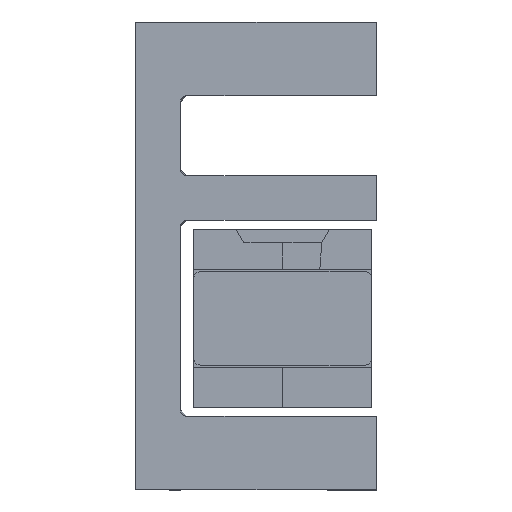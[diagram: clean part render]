
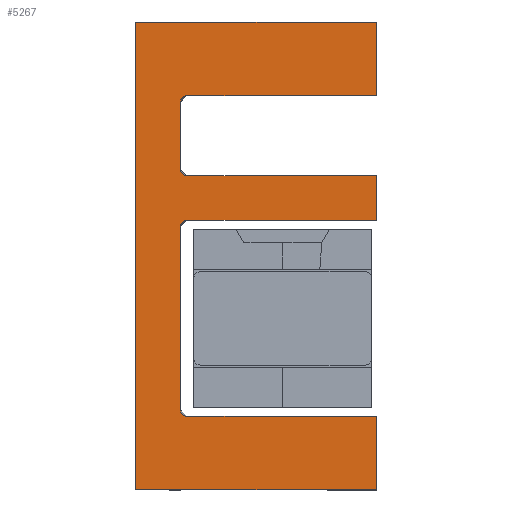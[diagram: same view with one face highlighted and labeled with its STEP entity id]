
A CAD part, front view. The second image highlights one B-rep face of the part: STEP entity #5267.
In plain terms, the highlighted planar face has unit normal (0, -1, 0) as drawn and (0, 0, 1) by its records, which use the part's own axes.
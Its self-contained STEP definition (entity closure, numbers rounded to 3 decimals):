
#34 = ORIENTED_EDGE ( 'NONE', *, *, #3536, .T. ) ;
#74 = VECTOR ( 'NONE', #5391, 1000. ) ;
#86 = FACE_OUTER_BOUND ( 'NONE', #3456, .T. ) ;
#94 = VERTEX_POINT ( 'NONE', #6573 ) ;
#153 = LINE ( 'NONE', #4887, #1956 ) ;
#230 = ORIENTED_EDGE ( 'NONE', *, *, #6426, .F. ) ;
#252 = ORIENTED_EDGE ( 'NONE', *, *, #6778, .F. ) ;
#262 = VERTEX_POINT ( 'NONE', #2011 ) ;
#266 = DIRECTION ( 'NONE',  ( -1., 0., 0. ) ) ;
#290 = DIRECTION ( 'NONE',  ( 1., 0., 0. ) ) ;
#291 = DIRECTION ( 'NONE',  ( 0., 1., 0. ) ) ;
#347 = LINE ( 'NONE', #2485, #420 ) ;
#420 = VECTOR ( 'NONE', #4127, 1000. ) ;
#459 = DIRECTION ( 'NONE',  ( 1., 0., 0. ) ) ;
#476 = VERTEX_POINT ( 'NONE', #5020 ) ;
#495 = CIRCLE ( 'NONE', #4330, 0.3 ) ;
#648 = PLANE ( 'NONE',  #3199 ) ;
#662 = CARTESIAN_POINT ( 'NONE',  ( 1.6, 1.9, 2870. ) ) ;
#762 = EDGE_CURVE ( 'NONE', #1960, #5938, #1044, .T. ) ;
#771 = DIRECTION ( 'NONE',  ( 0., 1., 0. ) ) ;
#833 = CARTESIAN_POINT ( 'NONE',  ( 12.4, 10.1, 2870. ) ) ;
#951 = CARTESIAN_POINT ( 'NONE',  ( 22.3, 1.6, 2870. ) ) ;
#994 = EDGE_CURVE ( 'NONE', #4483, #2611, #5388, .T. ) ;
#1010 = ORIENTED_EDGE ( 'NONE', *, *, #5158, .F. ) ;
#1044 = LINE ( 'NONE', #5294, #3952 ) ;
#1049 = DIRECTION ( 'NONE',  ( 0., 0., 1. ) ) ;
#1055 = AXIS2_PLACEMENT_3D ( 'NONE', #2237, #1049, #6959 ) ;
#1271 = VECTOR ( 'NONE', #771, 1000. ) ;
#1355 = ORIENTED_EDGE ( 'NONE', *, *, #4193, .T. ) ;
#1415 = DIRECTION ( 'NONE',  ( 0., 0., 1. ) ) ;
#1426 = VECTOR ( 'NONE', #1457, 1000. ) ;
#1457 = DIRECTION ( 'NONE',  ( 0., -1., 0. ) ) ;
#1464 = ORIENTED_EDGE ( 'NONE', *, *, #994, .T. ) ;
#1567 = DIRECTION ( 'NONE',  ( 0., 0., -1. ) ) ;
#1583 = ORIENTED_EDGE ( 'NONE', *, *, #6312, .F. ) ;
#1602 = CARTESIAN_POINT ( 'NONE',  ( 15.7, 10.1, 2870. ) ) ;
#1655 = CARTESIAN_POINT ( 'NONE',  ( 10.4, 1.6, 2870. ) ) ;
#1707 = LINE ( 'NONE', #3333, #5469 ) ;
#1708 = DIRECTION ( 'NONE',  ( 1., 0., 0. ) ) ;
#1731 = DIRECTION ( 'NONE',  ( 1., 0., 0. ) ) ;
#1934 = DIRECTION ( 'NONE',  ( 1., 0., 0. ) ) ;
#1956 = VECTOR ( 'NONE', #1731, 1000. ) ;
#1960 = VERTEX_POINT ( 'NONE', #4134 ) ;
#1962 = CARTESIAN_POINT ( 'NONE',  ( -1.7, 12.4, 2870. ) ) ;
#1986 = LINE ( 'NONE', #4147, #1426 ) ;
#2011 = CARTESIAN_POINT ( 'NONE',  ( 19.3, 12.4, 2870. ) ) ;
#2078 = CARTESIAN_POINT ( 'NONE',  ( 1.6, 1.6, 2870. ) ) ;
#2202 = VERTEX_POINT ( 'NONE', #5389 ) ;
#2237 = CARTESIAN_POINT ( 'NONE',  ( 10.1, 10.1, 2870. ) ) ;
#2248 = ORIENTED_EDGE ( 'NONE', *, *, #4060, .T. ) ;
#2278 = CARTESIAN_POINT ( 'NONE',  ( 15.7, 10.4, 2870. ) ) ;
#2311 = VERTEX_POINT ( 'NONE', #833 ) ;
#2327 = ORIENTED_EDGE ( 'NONE', *, *, #5906, .F. ) ;
#2332 = VERTEX_POINT ( 'NONE', #6661 ) ;
#2353 = CARTESIAN_POINT ( 'NONE',  ( 10.4, 10.1, 2870. ) ) ;
#2363 = ORIENTED_EDGE ( 'NONE', *, *, #3185, .F. ) ;
#2371 = ORIENTED_EDGE ( 'NONE', *, *, #4361, .F. ) ;
#2375 = ORIENTED_EDGE ( 'NONE', *, *, #5735, .T. ) ;
#2415 = VERTEX_POINT ( 'NONE', #1962 ) ;
#2430 = DIRECTION ( 'NONE',  ( 0., 0., -1. ) ) ;
#2431 = DIRECTION ( 'NONE',  ( 1., 0., 0. ) ) ;
#2432 = CIRCLE ( 'NONE', #5038, 0.3 ) ;
#2473 = DIRECTION ( 'NONE',  ( -1., 0., 0. ) ) ;
#2485 = CARTESIAN_POINT ( 'NONE',  ( 12.4, 10.4, 2870. ) ) ;
#2611 = VERTEX_POINT ( 'NONE', #2078 ) ;
#2775 = CARTESIAN_POINT ( 'NONE',  ( 10.1, 10.4, 2870. ) ) ;
#2794 = CARTESIAN_POINT ( 'NONE',  ( 1.9, 10.4, 2870. ) ) ;
#2802 = DIRECTION ( 'NONE',  ( 0., 1., 0. ) ) ;
#2850 = CARTESIAN_POINT ( 'NONE',  ( 12.7, 10.1, 2870. ) ) ;
#2877 = CIRCLE ( 'NONE', #5268, 0.3 ) ;
#2897 = CARTESIAN_POINT ( 'NONE',  ( 20.8, 12.4, 2870. ) ) ;
#2961 = CARTESIAN_POINT ( 'NONE',  ( 20.8, 10.7, 2870. ) ) ;
#3158 = CARTESIAN_POINT ( 'NONE',  ( 1.9, 10.1, 2870. ) ) ;
#3185 = EDGE_CURVE ( 'NONE', #4483, #2415, #6142, .T. ) ;
#3191 = VECTOR ( 'NONE', #459, 1000. ) ;
#3199 = AXIS2_PLACEMENT_3D ( 'NONE', #2961, #1415, #2431 ) ;
#3333 = CARTESIAN_POINT ( 'NONE',  ( 16., 9.7, 2870. ) ) ;
#3450 = CARTESIAN_POINT ( 'NONE',  ( -1.7, 10.4, 2870. ) ) ;
#3456 = EDGE_LOOP ( 'NONE', ( #2327, #2375, #2363, #1464, #230, #1583, #6735, #2371, #1010, #1355, #252, #2248, #4318, #6474, #4602, #34 ) ) ;
#3498 = VERTEX_POINT ( 'NONE', #1655 ) ;
#3536 = EDGE_CURVE ( 'NONE', #5896, #4492, #153, .T. ) ;
#3952 = VECTOR ( 'NONE', #4799, 1000. ) ;
#3978 = CARTESIAN_POINT ( 'NONE',  ( -1.7, 1.6, 2870. ) ) ;
#4051 = CARTESIAN_POINT ( 'NONE',  ( 19.3, 1.6, 2870. ) ) ;
#4060 = EDGE_CURVE ( 'NONE', #2311, #1960, #495, .T. ) ;
#4115 = CIRCLE ( 'NONE', #1055, 0.3 ) ;
#4127 = DIRECTION ( 'NONE',  ( 0., -1., 0. ) ) ;
#4134 = CARTESIAN_POINT ( 'NONE',  ( 12.7, 10.4, 2870. ) ) ;
#4147 = CARTESIAN_POINT ( 'NONE',  ( 19.3, 10.4, 2870. ) ) ;
#4193 = EDGE_CURVE ( 'NONE', #3498, #5488, #6255, .T. ) ;
#4318 = ORIENTED_EDGE ( 'NONE', *, *, #762, .T. ) ;
#4330 = AXIS2_PLACEMENT_3D ( 'NONE', #2850, #2430, #290 ) ;
#4361 = EDGE_CURVE ( 'NONE', #476, #6053, #4115, .T. ) ;
#4483 = VERTEX_POINT ( 'NONE', #3978 ) ;
#4492 = VERTEX_POINT ( 'NONE', #4051 ) ;
#4602 = ORIENTED_EDGE ( 'NONE', *, *, #5425, .F. ) ;
#4799 = DIRECTION ( 'NONE',  ( 1., 0., 0. ) ) ;
#4887 = CARTESIAN_POINT ( 'NONE',  ( 22.3, 1.6, 2870. ) ) ;
#5020 = CARTESIAN_POINT ( 'NONE',  ( 10.4, 10.1, 2870. ) ) ;
#5038 = AXIS2_PLACEMENT_3D ( 'NONE', #3158, #6786, #1934 ) ;
#5039 = LINE ( 'NONE', #2794, #6966 ) ;
#5158 = EDGE_CURVE ( 'NONE', #3498, #476, #6182, .T. ) ;
#5267 = ADVANCED_FACE ( 'NONE', ( #86 ), #648, .T. ) ;
#5268 = AXIS2_PLACEMENT_3D ( 'NONE', #1602, #1567, #1708 ) ;
#5294 = CARTESIAN_POINT ( 'NONE',  ( 16., 10.4, 2870. ) ) ;
#5341 = CARTESIAN_POINT ( 'NONE',  ( 12.4, 1.6, 2870. ) ) ;
#5388 = LINE ( 'NONE', #6054, #6905 ) ;
#5389 = CARTESIAN_POINT ( 'NONE',  ( 1.6, 10.1, 2870. ) ) ;
#5391 = DIRECTION ( 'NONE',  ( 0., -1., 0. ) ) ;
#5420 = DIRECTION ( 'NONE',  ( 1., 0., 0. ) ) ;
#5425 = EDGE_CURVE ( 'NONE', #5896, #94, #1707, .T. ) ;
#5469 = VECTOR ( 'NONE', #2802, 1000. ) ;
#5474 = VECTOR ( 'NONE', #2473, 1000. ) ;
#5488 = VERTEX_POINT ( 'NONE', #5341 ) ;
#5735 = EDGE_CURVE ( 'NONE', #262, #2415, #6150, .T. ) ;
#5896 = VERTEX_POINT ( 'NONE', #6929 ) ;
#5906 = EDGE_CURVE ( 'NONE', #262, #4492, #1986, .T. ) ;
#5938 = VERTEX_POINT ( 'NONE', #2278 ) ;
#5986 = LINE ( 'NONE', #662, #74 ) ;
#6053 = VERTEX_POINT ( 'NONE', #2775 ) ;
#6054 = CARTESIAN_POINT ( 'NONE',  ( 22.3, 1.6, 2870. ) ) ;
#6142 = LINE ( 'NONE', #3450, #1271 ) ;
#6150 = LINE ( 'NONE', #2897, #5474 ) ;
#6182 = LINE ( 'NONE', #2353, #6270 ) ;
#6255 = LINE ( 'NONE', #951, #3191 ) ;
#6270 = VECTOR ( 'NONE', #291, 1000. ) ;
#6312 = EDGE_CURVE ( 'NONE', #2332, #2202, #2432, .T. ) ;
#6382 = EDGE_CURVE ( 'NONE', #5938, #94, #2877, .T. ) ;
#6426 = EDGE_CURVE ( 'NONE', #2202, #2611, #5986, .T. ) ;
#6474 = ORIENTED_EDGE ( 'NONE', *, *, #6382, .T. ) ;
#6573 = CARTESIAN_POINT ( 'NONE',  ( 16., 10.1, 2870. ) ) ;
#6661 = CARTESIAN_POINT ( 'NONE',  ( 1.9, 10.4, 2870. ) ) ;
#6735 = ORIENTED_EDGE ( 'NONE', *, *, #6958, .F. ) ;
#6778 = EDGE_CURVE ( 'NONE', #2311, #5488, #347, .T. ) ;
#6786 = DIRECTION ( 'NONE',  ( 0., 0., 1. ) ) ;
#6905 = VECTOR ( 'NONE', #5420, 1000. ) ;
#6929 = CARTESIAN_POINT ( 'NONE',  ( 16., 1.6, 2870. ) ) ;
#6958 = EDGE_CURVE ( 'NONE', #6053, #2332, #5039, .T. ) ;
#6959 = DIRECTION ( 'NONE',  ( 1., 0., 0. ) ) ;
#6966 = VECTOR ( 'NONE', #266, 1000. ) ;
